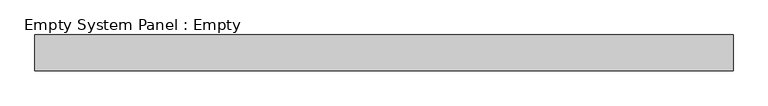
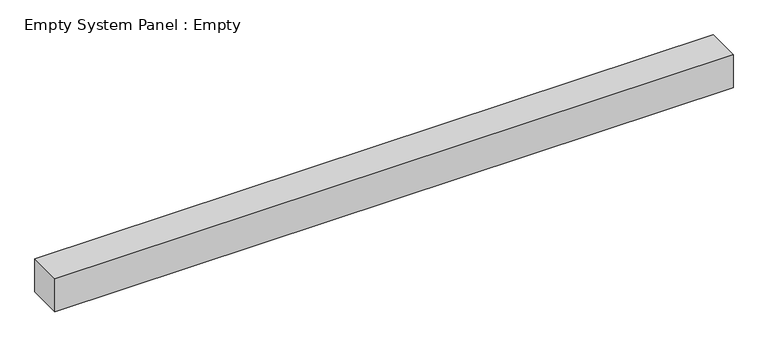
"""IFC4 building model written with IfcOpenShell, lengths in millimetres: plate geometry, Empty System Panel : Empty."""

from ifc_helpers import new_model, si_unit, origin, origin_with_axes, place, context, project, spatial, polyline, outline, extrude, source, transform, mapped, element, save


def empty_system_panel_empty_f44495d2(model_context):
    return source(origin(), model_context, "Body", "SweptSolid", [
        extrude(outline(polyline([(975.0, -50.0), (-975.0, -50.0), (-975.0, 50.0), (975.0, 50.0), (975.0, -50.0)])), origin_with_axes(), (0.0, 0.0, 1.0), 100.0),
    ])


if __name__ == "__main__":
    model = new_model("IFC4")
    model_context = context("Model", 3, world=origin())
    ifc_project = project(units=[si_unit("LENGTHUNIT", "METRE", prefix="MILLI")], contexts=[model_context])
    site = spatial("IfcSite", under=ifc_project)
    building = spatial("IfcBuilding", under=site)
    placement = place(None, origin())
    empty_system_panel_empty_shape = empty_system_panel_empty_f44495d2(model_context)
    element("IfcPlate", 1, ObjectType="Empty System Panel : Empty", at=placement, inside=building, context=model_context, shape_type="MappedRepresentation", body=[
        mapped(empty_system_panel_empty_shape, transform((0.0, 0.0, 0.0), x_axis=(1.0, 0.0, 0.0), y_axis=(0.0, 1.0, 0.0), z_axis=(0.0, 0.0, 1.0))),
    ])
    save(model, "model.ifc")
